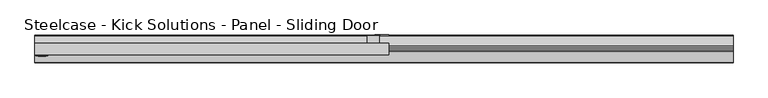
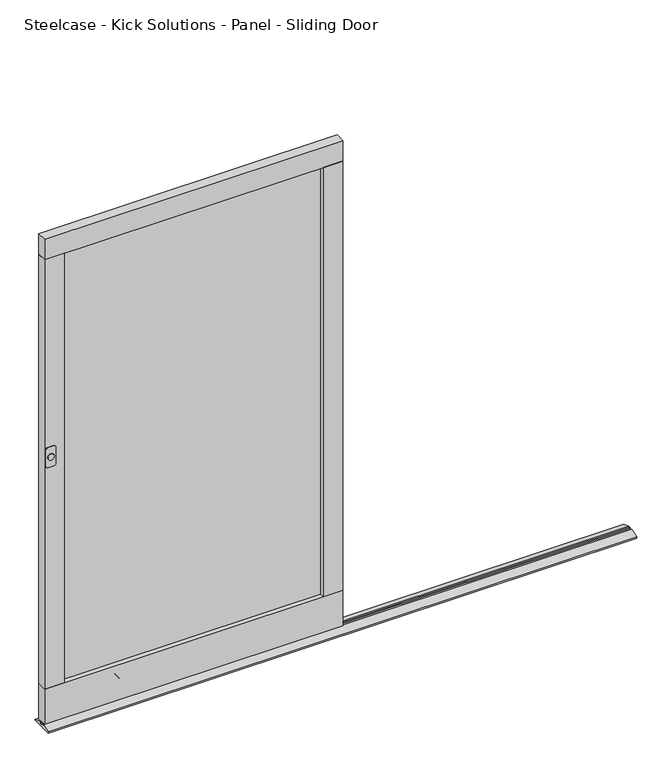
"""IFC4 building model written with IfcOpenShell, lengths in millimetres: furniture geometry, Steelcase - Kick Solutions - Panel - Sliding Door : 66H x 36W - Right Hand with Lock."""

from ifc_helpers import new_model, si_unit, point, frame, frame_2d, origin, place, context, project, spatial, polyline, circle_curve, trimmed, segment, composite_curve, outline, extrude, source, transform, mapped, element, save
from ifc_brep_helpers import plane_surface, cylinder_surface, advanced_brep


def steelcase_kick_solutions_panel_sliding_door_f910ed6a(model_context):
    return source(origin(), model_context, "Body", "SolidModel", [
        extrude(outline(composite_curve([segment(trimmed(circle_curve(frame_2d((927.2505008, 19.1322304)), 10.2804656), [point((937.5309664, 19.1322304))], [point((916.9700352, 19.1322304))], False, "CARTESIAN"), True, "CONTINUOUS"), segment(trimmed(circle_curve(frame_2d((927.2505008, 19.1322304)), 10.2804656), [point((916.9700352, 19.1322304))], [point((937.5309664, 19.1322304))], False, "CARTESIAN"), True, "CONTINUOUS")], self_intersect=False)), frame((0.0, -46.3394499, 0.0), z_axis=(0.0, 1.0, 0.0), x_axis=(0.0, 0.0, 1.0)), (0.0, 0.0, 1.0), 2.159),
        extrude(outline(composite_curve([segment(trimmed(circle_curve(frame_2d((954.4039028, 8.8899651)), 6.35), [point((960.7539028, 8.8899651))], [point((954.4039028, 2.5399651))], False, "CARTESIAN"), True, "CONTINUOUS"), segment(polyline([(954.4039028, 2.5399651), (899.7939028, 2.5399651)]), True, "CONTINUOUS"), segment(trimmed(circle_curve(frame_2d((899.7939028, 8.8899651)), 6.35), [point((899.7939028, 2.5399651))], [point((893.4439028, 8.8899651))], False, "CARTESIAN"), True, "CONTINUOUS"), segment(polyline([(893.4439028, 8.8899651), (893.4439028, 29.2099651)]), True, "CONTINUOUS"), segment(trimmed(circle_curve(frame_2d((899.7939028, 29.2099651)), 6.35), [point((893.4439028, 29.2099651))], [point((899.7939028, 35.5599651))], False, "CARTESIAN"), True, "CONTINUOUS"), segment(polyline([(899.7939028, 35.5599651), (954.4039028, 35.5599651)]), True, "CONTINUOUS"), segment(trimmed(circle_curve(frame_2d((954.4039028, 29.2099651)), 6.35), [point((954.4039028, 35.5599651))], [point((960.7539028, 29.2099651))], False, "CARTESIAN"), True, "CONTINUOUS"), segment(polyline([(960.7539028, 29.2099651), (960.7539028, 8.8899651)]), True, "CONTINUOUS")], self_intersect=False)), frame((0.0, -44.1804499, 0.0), z_axis=(0.0, 1.0, 0.0), x_axis=(0.0, 0.0, 1.0)), (0.0, 0.0, 1.0), 2.1118392),
        extrude(outline(composite_curve([segment(polyline([(942.3399783, 926.9958938), (942.3399783, 943.6915604)]), True, "CONTINUOUS"), segment(trimmed(circle_curve(frame_2d((933.6356449, 943.6915604)), 8.7043334), [point((942.3399783, 943.6915604))], [point((933.6356449, 952.3958938))], True, "CARTESIAN"), True, "CONTINUOUS"), segment(polyline([(933.6356449, 952.3958938), (911.9613141, 952.3958938)]), True, "CONTINUOUS"), segment(trimmed(circle_curve(frame_2d((911.9613141, 944.674558)), 7.7213358), [point((911.9613141, 952.3958938))], [point((904.2399783, 944.674558))], True, "CARTESIAN"), True, "CONTINUOUS"), segment(polyline([(904.2399783, 944.674558), (904.2399783, 926.9958938), (891.5399783, 926.9958938), (891.5399783, 943.4242308)]), True, "CONTINUOUS"), segment(trimmed(circle_curve(frame_2d((913.3157475, 943.4242308)), 21.7757692), [point((891.5399783, 943.4242308))], [point((913.3157475, 965.2))], False, "CARTESIAN"), True, "CONTINUOUS"), segment(polyline([(913.3157475, 965.2), (932.54852, 965.2)]), True, "CONTINUOUS"), segment(trimmed(circle_curve(frame_2d((932.54852, 942.7085417)), 22.4914583), [point((932.54852, 965.2))], [point((955.0399783, 942.7085417))], False, "CARTESIAN"), True, "CONTINUOUS"), segment(polyline([(955.0399783, 942.7085417), (955.0399783, 926.9958938), (942.3399783, 926.9958938)]), True, "CONTINUOUS")], self_intersect=False)), frame((0.0, 9.7793101, 0.0), z_axis=(0.0, 1.0, 0.0), x_axis=(0.0, 0.0, 1.0)), (0.0, 0.0, 1.0), 2.1118397),
        extrude(outline(polyline([(939.8634651, -10.3186092), (906.8434651, -10.3186092), (906.8434651, 9.7793101), (939.8634651, 9.7793101), (939.8634651, -10.3186092)])), frame((0.0, 0.0, 828.6739028), z_axis=(0.0, 0.0, 1.0), x_axis=(1.0, 0.0, 0.0)), (0.0, 0.0, 1.0), 196.85),
        advanced_brep(
        [(762.0000484, -18.7010906, 6.7959428), (762.0000484, -18.7010906, 108.3959428), (762.0000484, -18.7010906, 57.5959428), (762.0000484, -23.8703628, 6.7959428), (762.0000484, -23.8703628, 108.3959428), (762.0000484, -23.8703628, 57.5959428)],
        [
            (0, 1, circle_curve(frame((762.0000484, -18.7010906, 57.5959428), z_axis=(0.0, 1.0, 0.0), x_axis=(0.0, 0.0, 1.0)), 50.8)),
            (1, 2),
            (2, 0),
            (1, 0, circle_curve(frame((762.0000484, -18.7010906, 57.5959428), z_axis=(0.0, 1.0, 0.0), x_axis=(0.0, 0.0, 1.0)), 50.8)),
            (3, 4, circle_curve(frame((762.0000484, -23.8703628, 57.5959428), z_axis=(0.0, 1.0, 0.0), x_axis=(0.0, 0.0, 1.0)), 50.8)),
            (4, 1),
            (0, 3),
            (4, 3, circle_curve(frame((762.0000484, -23.8703628, 57.5959428), z_axis=(0.0, 1.0, 0.0), x_axis=(0.0, 0.0, 1.0)), 50.8)),
            (5, 4),
            (3, 5),
        ],
        [
            plane_surface(frame((762.0000484, -18.7010906, 57.5959428), z_axis=(0.0, 1.0, 0.0), x_axis=(0.0, 0.0, 1.0))),
            cylinder_surface(frame((762.0000484, -28.422537, 57.5959428), z_axis=(0.0, -1.0, 0.0), x_axis=(0.0, 0.0, 1.0)), 50.8),
            plane_surface(frame((762.0000484, -23.8703628, 57.5959428), z_axis=(0.0, -1.0, 0.0), x_axis=(0.0, 0.0, 1.0))),
        ],
        [
            (0, [[1, 2, 3]]),
            (0, [[4, -3, -2]]),
            (1, [[5, 6, -1, 7]]),
            (1, [[8, -7, -4, -6]]),
            (2, [[9, -5, 10]]),
            (2, [[-10, -8, -9]]),
        ],
    ),
        advanced_brep(
        [(762.0000484, -28.422537, 6.7959428), (762.0000484, -28.422537, 108.3959428), (762.0000484, -28.422537, 57.5959428), (762.0000484, -33.4459111, 6.7959428), (762.0000484, -33.4459111, 108.3959428), (762.0000484, -33.4459111, 57.5959428)],
        [
            (0, 1, circle_curve(frame((762.0000484, -28.422537, 57.5959428), z_axis=(0.0, 1.0, 0.0), x_axis=(0.0, 0.0, 1.0)), 50.8)),
            (1, 2),
            (2, 0),
            (1, 0, circle_curve(frame((762.0000484, -28.422537, 57.5959428), z_axis=(0.0, 1.0, 0.0), x_axis=(0.0, 0.0, 1.0)), 50.8)),
            (3, 4, circle_curve(frame((762.0000484, -33.4459111, 57.5959428), z_axis=(0.0, 1.0, 0.0), x_axis=(0.0, 0.0, 1.0)), 50.8)),
            (4, 1),
            (0, 3),
            (4, 3, circle_curve(frame((762.0000484, -33.4459111, 57.5959428), z_axis=(0.0, 1.0, 0.0), x_axis=(0.0, 0.0, 1.0)), 50.8)),
            (5, 4),
            (3, 5),
        ],
        [
            plane_surface(frame((762.0000484, -28.422537, 57.5959428), z_axis=(0.0, 1.0, 0.0), x_axis=(0.0, 0.0, 1.0))),
            cylinder_surface(frame((762.0000484, -28.422537, 57.5959428), z_axis=(0.0, -1.0, 0.0), x_axis=(0.0, 0.0, 1.0)), 50.8),
            plane_surface(frame((762.0000484, -33.4459111, 57.5959428), z_axis=(0.0, -1.0, 0.0), x_axis=(0.0, 0.0, 1.0))),
        ],
        [
            (0, [[1, 2, 3]]),
            (0, [[4, -3, -2]]),
            (1, [[5, 6, -1, 7]]),
            (1, [[8, -7, -4, -6]]),
            (2, [[9, -5, 10]]),
            (2, [[-10, -8, -9]]),
        ],
    ),
        advanced_brep(
        [(203.2000484, -18.7010906, 6.7959428), (203.2000484, -18.7010906, 108.3959428), (203.2000484, -18.7010906, 57.5959428), (203.2000484, -23.8703628, 6.7959428), (203.2000484, -23.8703628, 108.3959428), (203.2000484, -23.8703628, 57.5959428)],
        [
            (0, 1, circle_curve(frame((203.2000484, -18.7010906, 57.5959428), z_axis=(0.0, 1.0, 0.0), x_axis=(0.0, 0.0, 1.0)), 50.8)),
            (1, 2),
            (2, 0),
            (1, 0, circle_curve(frame((203.2000484, -18.7010906, 57.5959428), z_axis=(0.0, 1.0, 0.0), x_axis=(0.0, 0.0, 1.0)), 50.8)),
            (3, 4, circle_curve(frame((203.2000484, -23.8703628, 57.5959428), z_axis=(0.0, 1.0, 0.0), x_axis=(0.0, 0.0, 1.0)), 50.8)),
            (4, 1),
            (0, 3),
            (4, 3, circle_curve(frame((203.2000484, -23.8703628, 57.5959428), z_axis=(0.0, 1.0, 0.0), x_axis=(0.0, 0.0, 1.0)), 50.8)),
            (5, 4),
            (3, 5),
        ],
        [
            plane_surface(frame((203.2000484, -18.7010906, 57.5959428), z_axis=(0.0, 1.0, 0.0), x_axis=(0.0, 0.0, 1.0))),
            cylinder_surface(frame((203.2000484, -28.422537, 57.5959428), z_axis=(0.0, -1.0, 0.0), x_axis=(0.0, 0.0, 1.0)), 50.8),
            plane_surface(frame((203.2000484, -23.8703628, 57.5959428), z_axis=(0.0, -1.0, 0.0), x_axis=(0.0, 0.0, 1.0))),
        ],
        [
            (0, [[1, 2, 3]]),
            (0, [[4, -3, -2]]),
            (1, [[5, 6, -1, 7]]),
            (1, [[8, -7, -4, -6]]),
            (2, [[9, -5, 10]]),
            (2, [[-10, -8, -9]]),
        ],
    ),
        advanced_brep(
        [(203.2000484, -28.422537, 6.7959428), (203.2000484, -28.422537, 108.3959428), (203.2000484, -28.422537, 57.5959428), (203.2000484, -33.4459111, 6.7959428), (203.2000484, -33.4459111, 108.3959428), (203.2000484, -33.4459111, 57.5959428)],
        [
            (0, 1, circle_curve(frame((203.2000484, -28.422537, 57.5959428), z_axis=(0.0, 1.0, 0.0), x_axis=(0.0, 0.0, 1.0)), 50.8)),
            (1, 2),
            (2, 0),
            (1, 0, circle_curve(frame((203.2000484, -28.422537, 57.5959428), z_axis=(0.0, 1.0, 0.0), x_axis=(0.0, 0.0, 1.0)), 50.8)),
            (3, 4, circle_curve(frame((203.2000484, -33.4459111, 57.5959428), z_axis=(0.0, 1.0, 0.0), x_axis=(0.0, 0.0, 1.0)), 50.8)),
            (4, 1),
            (0, 3),
            (4, 3, circle_curve(frame((203.2000484, -33.4459111, 57.5959428), z_axis=(0.0, 1.0, 0.0), x_axis=(0.0, 0.0, 1.0)), 50.8)),
            (5, 4),
            (3, 5),
        ],
        [
            plane_surface(frame((203.2000484, -28.422537, 57.5959428), z_axis=(0.0, 1.0, 0.0), x_axis=(0.0, 0.0, 1.0))),
            cylinder_surface(frame((203.2000484, -28.422537, 57.5959428), z_axis=(0.0, -1.0, 0.0), x_axis=(0.0, 0.0, 1.0)), 50.8),
            plane_surface(frame((203.2000484, -33.4459111, 57.5959428), z_axis=(0.0, -1.0, 0.0), x_axis=(0.0, 0.0, 1.0))),
        ],
        [
            (0, [[1, 2, 3]]),
            (0, [[4, -3, -2]]),
            (1, [[5, 6, -1, 7]]),
            (1, [[8, -7, -4, -6]]),
            (2, [[9, -5, 10]]),
            (2, [[-10, -8, -9]]),
        ],
    ),
        extrude(outline(polyline([(63.5000484, -42.0686107), (0.0, -42.0686107), (0.0, -10.3186092), (63.5000484, -10.3186092), (63.5000484, -42.0686107)])), frame((0.0, 0.0, 137.1589063), z_axis=(0.0, 0.0, 1.0), x_axis=(1.0, 0.0, 0.0)), (0.0, 0.0, 1.0), 1469.3911421),
        extrude(outline(polyline([(965.2, -42.0686107), (901.7000484, -42.0686107), (901.7000484, -10.3186092), (965.2, -10.3186092), (965.2, -42.0686107)])), frame((0.0, 0.0, 137.1589063), z_axis=(0.0, 0.0, 1.0), x_axis=(1.0, 0.0, 0.0)), (0.0, 0.0, 1.0), 1469.3911421),
        extrude(outline(polyline([(-24.2505784, 6.2879429), (-17.9005799, 6.2879429), (-17.9005799, 12.2490843), (10.0049365, 3.0138476), (11.9383101, 0.0), (-64.2312094, 0.0), (-62.2978359, 3.0138476), (-34.3923194, 12.2490843), (-34.3923194, 6.2879429), (-28.042321, 6.2879429), (-28.042321, 12.6379425), (-24.2505784, 12.6379425), (-24.2505784, 6.2879429)])), frame((0.0, 0.0, 0.0), z_axis=(1.0, 0.0, 0.0), x_axis=(0.0, 1.0, 0.0)), (0.0, 0.0, 1.0), 1905.0),
        extrude(outline(polyline([(965.2, -10.3186092), (965.2, -42.0686107), (0.0, -42.0686107), (0.0, -10.3186092), (965.2, -10.3186092)])), frame((0.0, 0.0, 16.5089033), z_axis=(0.0, 0.0, 1.0), x_axis=(1.0, 0.0, 0.0)), (0.0, 0.0, 1.0), 120.650003),
        extrude(outline(polyline([(965.2, -10.3186092), (965.2, -42.0686107), (0.0, -42.0686107), (0.0, -10.3186092), (965.2, -10.3186092)])), frame((0.0, 0.0, 1606.5500484), z_axis=(0.0, 0.0, 1.0), x_axis=(1.0, 0.0, 0.0)), (0.0, 0.0, 1.0), 69.8499516),
        extrude(outline(polyline([(901.7000484, -27.6369762), (63.5000484, -27.6369762), (63.5000484, -24.6559232), (901.7000484, -24.6559232), (901.7000484, -27.6369762)])), frame((0.0, 0.0, 137.1589063), z_axis=(0.0, 0.0, 1.0), x_axis=(1.0, 0.0, 0.0)), (0.0, 0.0, 1.0), 1469.3911421),
    ])


if __name__ == "__main__":
    model = new_model("IFC4")
    model_context = context("Model", 3, world=origin())
    ifc_project = project(units=[si_unit("LENGTHUNIT", "METRE", prefix="MILLI")], contexts=[model_context])
    site = spatial("IfcSite", under=ifc_project)
    building = spatial("IfcBuilding", under=site)
    placement = place(None, origin())
    steelcase_kick_solutions_panel_sliding_door_shape = steelcase_kick_solutions_panel_sliding_door_f910ed6a(model_context)
    element("IfcFurniture", 1, ObjectType="Steelcase - Kick Solutions - Panel - Sliding Door : 66H x 36W - Right Hand with Lock", at=placement, inside=building, context=model_context, shape_type="MappedRepresentation", body=[
        mapped(steelcase_kick_solutions_panel_sliding_door_shape, transform((0.0, 0.0, 0.0), x_axis=(1.0, 0.0, 0.0), y_axis=(0.0, 1.0, 0.0), z_axis=(0.0, 0.0, 1.0))),
    ])
    save(model, "model.ifc")
